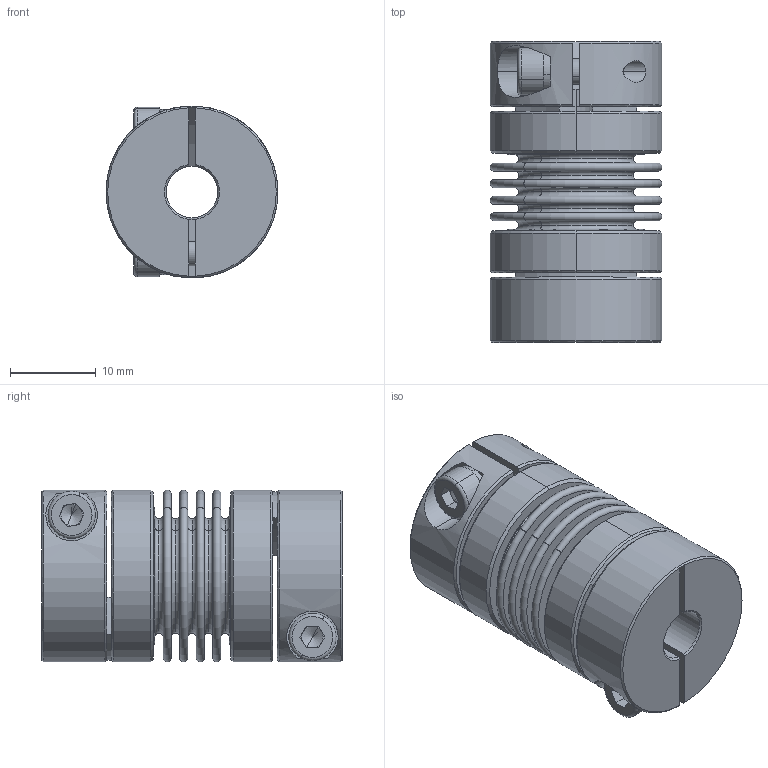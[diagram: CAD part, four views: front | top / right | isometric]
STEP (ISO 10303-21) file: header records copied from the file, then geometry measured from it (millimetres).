
FILE_DESCRIPTION (( 'STEP AP203' ), '1' );
FILE_NAME ('LB-B-D20L34-6-6.35.STEP', '2021-11-04T01:40:25', ( '' ), ( '' ), 'SwSTEP 2.0', 'SolidWorks 2018', '' );
FILE_SCHEMA (( 'CONFIG_CONTROL_DESIGN' ));
Length unit declared in the file: millimetre
Products named in the file (2): LB-B-D20L34-6-6.35; 零件4^LB-B-D20L34 波纹管联轴器-组装体
Assembly tree (1 placements, depth 2):
  LB-B-D20L34-6-6.35
    零件4^LB-B-D20L34 波纹管联轴器-组装体
Bounding box: 20 x 35 x 20 mm (x, y, z)
Volume: 6090.8 mm3; surface area: 9557.5 mm2
Topology: 1 solids, 1 shells, 246 faces, 578 edges, 358 vertices
Faces by surface type: plane 82, torus 68, cylinder 62, cone 34
Entity records: 7554 total; most frequent: CARTESIAN_POINT 1494, DIRECTION 1382, ORIENTED_EDGE 1148, AXIS2_PLACEMENT_3D 606, EDGE_CURVE 574, VERTEX_POINT 358, CIRCLE 356, EDGE_LOOP 288
